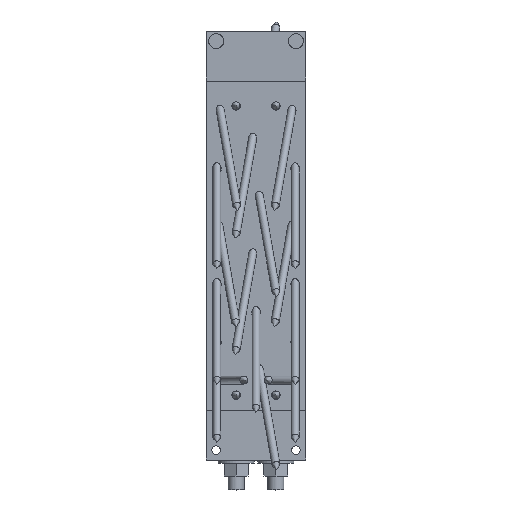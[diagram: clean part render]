
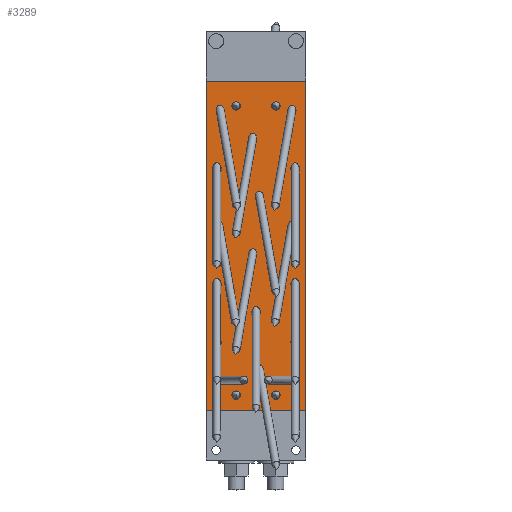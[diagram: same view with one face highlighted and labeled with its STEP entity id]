
A CAD part, top view. The second image highlights one B-rep face of the part: STEP entity #3289.
In plain terms, the highlighted planar face has unit normal (0, 0, 1) as drawn and (0, 0, -1) by its records, which use the part's own axes.
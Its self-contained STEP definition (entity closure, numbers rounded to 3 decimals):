
#372=ELLIPSE('',#3791,6.103,4.25);
#373=ELLIPSE('',#3792,6.103,4.25);
#374=ELLIPSE('',#3793,6.103,4.25);
#375=ELLIPSE('',#3794,6.103,4.25);
#376=ELLIPSE('',#3795,6.103,4.25);
#377=ELLIPSE('',#3796,6.01,4.25);
#378=ELLIPSE('',#3797,6.01,4.25);
#379=ELLIPSE('',#3798,6.103,4.25);
#380=ELLIPSE('',#3799,6.103,4.25);
#381=ELLIPSE('',#3800,6.01,4.25);
#382=ELLIPSE('',#3801,6.01,4.25);
#383=ELLIPSE('',#3802,6.01,4.25);
#384=ELLIPSE('',#3803,6.01,4.25);
#385=ELLIPSE('',#3804,6.01,4.25);
#386=ELLIPSE('',#3805,6.103,4.25);
#387=ELLIPSE('',#3810,4.316,4.25);
#388=ELLIPSE('',#3811,4.316,4.25);
#485=LINE('',#5413,#733);
#487=LINE('',#5455,#735);
#488=LINE('',#5457,#736);
#489=LINE('',#5459,#737);
#733=VECTOR('',#4316,1000.);
#735=VECTOR('',#4358,1000.);
#736=VECTOR('',#4359,1000.);
#737=VECTOR('',#4360,1000.);
#1031=ORIENTED_EDGE('',*,*,#1782,.F.);
#1032=ORIENTED_EDGE('',*,*,#1783,.F.);
#1033=ORIENTED_EDGE('',*,*,#1784,.F.);
#1034=ORIENTED_EDGE('',*,*,#1785,.F.);
#1035=ORIENTED_EDGE('',*,*,#1786,.F.);
#1036=ORIENTED_EDGE('',*,*,#1787,.F.);
#1037=ORIENTED_EDGE('',*,*,#1788,.F.);
#1038=ORIENTED_EDGE('',*,*,#1789,.F.);
#1039=ORIENTED_EDGE('',*,*,#1790,.F.);
#1040=ORIENTED_EDGE('',*,*,#1791,.F.);
#1041=ORIENTED_EDGE('',*,*,#1792,.F.);
#1042=ORIENTED_EDGE('',*,*,#1793,.F.);
#1043=ORIENTED_EDGE('',*,*,#1794,.F.);
#1044=ORIENTED_EDGE('',*,*,#1795,.F.);
#1045=ORIENTED_EDGE('',*,*,#1796,.F.);
#1046=ORIENTED_EDGE('',*,*,#1797,.F.);
#1047=ORIENTED_EDGE('',*,*,#1798,.F.);
#1048=ORIENTED_EDGE('',*,*,#1799,.F.);
#1049=ORIENTED_EDGE('',*,*,#1800,.F.);
#1050=ORIENTED_EDGE('',*,*,#1801,.F.);
#1051=ORIENTED_EDGE('',*,*,#1802,.T.);
#1052=ORIENTED_EDGE('',*,*,#1803,.T.);
#1053=ORIENTED_EDGE('',*,*,#1780,.F.);
#1054=ORIENTED_EDGE('',*,*,#1804,.T.);
#1055=ORIENTED_EDGE('',*,*,#1805,.T.);
#1780=EDGE_CURVE('',#2147,#2148,#485,.T.);
#1782=EDGE_CURVE('',#2149,#2149,#372,.T.);
#1783=EDGE_CURVE('',#2150,#2150,#373,.T.);
#1784=EDGE_CURVE('',#2151,#2151,#374,.T.);
#1785=EDGE_CURVE('',#2152,#2152,#375,.T.);
#1786=EDGE_CURVE('',#2153,#2153,#376,.T.);
#1787=EDGE_CURVE('',#2154,#2154,#377,.T.);
#1788=EDGE_CURVE('',#2155,#2155,#378,.T.);
#1789=EDGE_CURVE('',#2156,#2156,#379,.T.);
#1790=EDGE_CURVE('',#2157,#2157,#380,.T.);
#1791=EDGE_CURVE('',#2158,#2158,#381,.T.);
#1792=EDGE_CURVE('',#2159,#2159,#382,.T.);
#1793=EDGE_CURVE('',#2160,#2160,#383,.T.);
#1794=EDGE_CURVE('',#2161,#2161,#384,.T.);
#1795=EDGE_CURVE('',#2162,#2162,#385,.T.);
#1796=EDGE_CURVE('',#2163,#2163,#386,.T.);
#1797=EDGE_CURVE('',#2164,#2164,#2361,.T.);
#1798=EDGE_CURVE('',#2165,#2165,#2362,.T.);
#1799=EDGE_CURVE('',#2166,#2166,#2363,.T.);
#1800=EDGE_CURVE('',#2167,#2167,#2364,.T.);
#1801=EDGE_CURVE('',#2168,#2147,#487,.T.);
#1802=EDGE_CURVE('',#2168,#2169,#488,.T.);
#1803=EDGE_CURVE('',#2169,#2148,#489,.T.);
#1804=EDGE_CURVE('',#2170,#2170,#387,.F.);
#1805=EDGE_CURVE('',#2171,#2171,#388,.F.);
#2147=VERTEX_POINT('',#5412);
#2148=VERTEX_POINT('',#5414);
#2149=VERTEX_POINT('',#5418);
#2150=VERTEX_POINT('',#5420);
#2151=VERTEX_POINT('',#5422);
#2152=VERTEX_POINT('',#5424);
#2153=VERTEX_POINT('',#5426);
#2154=VERTEX_POINT('',#5428);
#2155=VERTEX_POINT('',#5430);
#2156=VERTEX_POINT('',#5432);
#2157=VERTEX_POINT('',#5434);
#2158=VERTEX_POINT('',#5436);
#2159=VERTEX_POINT('',#5438);
#2160=VERTEX_POINT('',#5440);
#2161=VERTEX_POINT('',#5442);
#2162=VERTEX_POINT('',#5444);
#2163=VERTEX_POINT('',#5446);
#2164=VERTEX_POINT('',#5448);
#2165=VERTEX_POINT('',#5450);
#2166=VERTEX_POINT('',#5452);
#2167=VERTEX_POINT('',#5454);
#2168=VERTEX_POINT('',#5456);
#2169=VERTEX_POINT('',#5458);
#2170=VERTEX_POINT('',#5461);
#2171=VERTEX_POINT('',#5463);
#2361=CIRCLE('',#3806,4.25);
#2362=CIRCLE('',#3807,4.25);
#2363=CIRCLE('',#3808,4.25);
#2364=CIRCLE('',#3809,4.25);
#2494=EDGE_LOOP('',(#1031));
#2495=EDGE_LOOP('',(#1032));
#2496=EDGE_LOOP('',(#1033));
#2497=EDGE_LOOP('',(#1034));
#2498=EDGE_LOOP('',(#1035));
#2499=EDGE_LOOP('',(#1036));
#2500=EDGE_LOOP('',(#1037));
#2501=EDGE_LOOP('',(#1038));
#2502=EDGE_LOOP('',(#1039));
#2503=EDGE_LOOP('',(#1040));
#2504=EDGE_LOOP('',(#1041));
#2505=EDGE_LOOP('',(#1042));
#2506=EDGE_LOOP('',(#1043));
#2507=EDGE_LOOP('',(#1044));
#2508=EDGE_LOOP('',(#1045));
#2509=EDGE_LOOP('',(#1046));
#2510=EDGE_LOOP('',(#1047));
#2511=EDGE_LOOP('',(#1048));
#2512=EDGE_LOOP('',(#1049));
#2513=EDGE_LOOP('',(#1050,#1051,#1052,#1053));
#2514=EDGE_LOOP('',(#1054));
#2515=EDGE_LOOP('',(#1055));
#2850=FACE_BOUND('',#2494,.T.);
#2851=FACE_BOUND('',#2495,.T.);
#2852=FACE_BOUND('',#2496,.T.);
#2853=FACE_BOUND('',#2497,.T.);
#2854=FACE_BOUND('',#2498,.T.);
#2855=FACE_BOUND('',#2499,.T.);
#2856=FACE_BOUND('',#2500,.T.);
#2857=FACE_BOUND('',#2501,.T.);
#2858=FACE_BOUND('',#2502,.T.);
#2859=FACE_BOUND('',#2503,.T.);
#2860=FACE_BOUND('',#2504,.T.);
#2861=FACE_BOUND('',#2505,.T.);
#2862=FACE_BOUND('',#2506,.T.);
#2863=FACE_BOUND('',#2507,.T.);
#2864=FACE_BOUND('',#2508,.T.);
#2865=FACE_BOUND('',#2509,.T.);
#2866=FACE_BOUND('',#2510,.T.);
#2867=FACE_BOUND('',#2511,.T.);
#2868=FACE_BOUND('',#2512,.T.);
#2869=FACE_BOUND('',#2513,.T.);
#2870=FACE_BOUND('',#2514,.T.);
#2871=FACE_BOUND('',#2515,.T.);
#3185=PLANE('',#3790);
#3289=ADVANCED_FACE('',(#2850,#2851,#2852,#2853,#2854,#2855,#2856,#2857,
#2858,#2859,#2860,#2861,#2862,#2863,#2864,#2865,#2866,#2867,#2868,#2869,
#2870,#2871),#3185,.T.);
#3790=AXIS2_PLACEMENT_3D('',#5416,#4318,#4319);
#3791=AXIS2_PLACEMENT_3D('',#5417,#4320,#4321);
#3792=AXIS2_PLACEMENT_3D('',#5419,#4322,#4323);
#3793=AXIS2_PLACEMENT_3D('',#5421,#4324,#4325);
#3794=AXIS2_PLACEMENT_3D('',#5423,#4326,#4327);
#3795=AXIS2_PLACEMENT_3D('',#5425,#4328,#4329);
#3796=AXIS2_PLACEMENT_3D('',#5427,#4330,#4331);
#3797=AXIS2_PLACEMENT_3D('',#5429,#4332,#4333);
#3798=AXIS2_PLACEMENT_3D('',#5431,#4334,#4335);
#3799=AXIS2_PLACEMENT_3D('',#5433,#4336,#4337);
#3800=AXIS2_PLACEMENT_3D('',#5435,#4338,#4339);
#3801=AXIS2_PLACEMENT_3D('',#5437,#4340,#4341);
#3802=AXIS2_PLACEMENT_3D('',#5439,#4342,#4343);
#3803=AXIS2_PLACEMENT_3D('',#5441,#4344,#4345);
#3804=AXIS2_PLACEMENT_3D('',#5443,#4346,#4347);
#3805=AXIS2_PLACEMENT_3D('',#5445,#4348,#4349);
#3806=AXIS2_PLACEMENT_3D('',#5447,#4350,#4351);
#3807=AXIS2_PLACEMENT_3D('',#5449,#4352,#4353);
#3808=AXIS2_PLACEMENT_3D('',#5451,#4354,#4355);
#3809=AXIS2_PLACEMENT_3D('',#5453,#4356,#4357);
#3810=AXIS2_PLACEMENT_3D('',#5460,#4361,#4362);
#3811=AXIS2_PLACEMENT_3D('',#5462,#4363,#4364);
#4316=DIRECTION('',(0.,-1.,0.));
#4318=DIRECTION('',(0.,0.,-1.));
#4319=DIRECTION('',(-1.,0.,0.));
#4320=DIRECTION('',(0.,0.,-1.));
#4321=DIRECTION('',(0.171,-0.985,0.));
#4322=DIRECTION('',(0.,0.,-1.));
#4323=DIRECTION('',(-0.171,-0.985,0.));
#4324=DIRECTION('',(0.,0.,-1.));
#4325=DIRECTION('',(0.171,-0.985,0.));
#4326=DIRECTION('',(0.,0.,-1.));
#4327=DIRECTION('',(-0.171,-0.985,0.));
#4328=DIRECTION('',(0.,0.,-1.));
#4329=DIRECTION('',(0.171,-0.985,0.));
#4330=DIRECTION('',(0.,0.,-1.));
#4331=DIRECTION('',(0.,-1.,0.));
#4332=DIRECTION('',(0.,0.,-1.));
#4333=DIRECTION('',(0.,-1.,0.));
#4334=DIRECTION('',(0.,0.,-1.));
#4335=DIRECTION('',(-0.171,-0.985,0.));
#4336=DIRECTION('',(0.,0.,-1.));
#4337=DIRECTION('',(0.171,-0.985,0.));
#4338=DIRECTION('',(0.,0.,-1.));
#4339=DIRECTION('',(0.,-1.,0.));
#4340=DIRECTION('',(0.,0.,-1.));
#4341=DIRECTION('',(0.,-1.,0.));
#4342=DIRECTION('',(0.,0.,-1.));
#4343=DIRECTION('',(0.,-1.,0.));
#4344=DIRECTION('',(0.,0.,-1.));
#4345=DIRECTION('',(0.,-1.,0.));
#4346=DIRECTION('',(0.,0.,-1.));
#4347=DIRECTION('',(0.,-1.,0.));
#4348=DIRECTION('',(0.,0.,-1.));
#4349=DIRECTION('',(-0.171,-0.985,0.));
#4350=DIRECTION('',(0.,0.,-1.));
#4351=DIRECTION('',(-1.,0.,0.));
#4352=DIRECTION('',(0.,0.,-1.));
#4353=DIRECTION('',(-1.,0.,0.));
#4354=DIRECTION('',(0.,0.,-1.));
#4355=DIRECTION('',(-1.,0.,0.));
#4356=DIRECTION('',(0.,0.,-1.));
#4357=DIRECTION('',(-1.,0.,0.));
#4358=DIRECTION('',(-1.,0.,0.));
#4359=DIRECTION('',(0.,-1.,0.));
#4360=DIRECTION('',(-1.,0.,0.));
#4361=DIRECTION('',(0.,0.,-1.));
#4362=DIRECTION('',(-1.,0.,0.));
#4363=DIRECTION('',(0.,0.,-1.));
#4364=DIRECTION('',(1.,0.,0.));
#5412=CARTESIAN_POINT('',(0.,350.,0.));
#5413=CARTESIAN_POINT('',(0.,370.,0.));
#5414=CARTESIAN_POINT('',(0.,20.,0.));
#5416=CARTESIAN_POINT('',(0.,370.,0.));
#5417=CARTESIAN_POINT('',(46.473,78.313,0.));
#5418=CARTESIAN_POINT('',(47.518,72.299,0.));
#5419=CARTESIAN_POINT('',(53.527,136.316,0.));
#5420=CARTESIAN_POINT('',(52.482,130.303,0.));
#5421=CARTESIAN_POINT('',(46.473,194.313,0.));
#5422=CARTESIAN_POINT('',(47.518,188.3,0.));
#5423=CARTESIAN_POINT('',(14.277,50.304,0.));
#5424=CARTESIAN_POINT('',(13.232,44.291,0.));
#5425=CARTESIAN_POINT('',(85.723,50.304,0.));
#5426=CARTESIAN_POINT('',(86.768,44.291,0.));
#5427=CARTESIAN_POINT('',(10.75,108.,0.));
#5428=CARTESIAN_POINT('',(10.75,101.99,0.));
#5429=CARTESIAN_POINT('',(89.25,108.,0.));
#5430=CARTESIAN_POINT('',(89.25,101.99,0.));
#5431=CARTESIAN_POINT('',(12.905,166.307,0.));
#5432=CARTESIAN_POINT('',(11.861,160.294,0.));
#5433=CARTESIAN_POINT('',(85.723,166.312,0.));
#5434=CARTESIAN_POINT('',(86.768,160.299,0.));
#5435=CARTESIAN_POINT('',(10.75,224.,0.));
#5436=CARTESIAN_POINT('',(10.75,217.99,0.));
#5437=CARTESIAN_POINT('',(89.25,224.,0.));
#5438=CARTESIAN_POINT('',(89.25,217.99,0.));
#5439=CARTESIAN_POINT('',(50.,252.,0.));
#5440=CARTESIAN_POINT('',(50.,245.99,0.));
#5441=CARTESIAN_POINT('',(10.75,282.,0.));
#5442=CARTESIAN_POINT('',(10.75,275.99,0.));
#5443=CARTESIAN_POINT('',(89.25,282.,0.));
#5444=CARTESIAN_POINT('',(89.25,275.99,0.));
#5445=CARTESIAN_POINT('',(53.602,310.306,0.));
#5446=CARTESIAN_POINT('',(52.558,304.293,0.));
#5447=CARTESIAN_POINT('',(30.,45.,0.));
#5448=CARTESIAN_POINT('',(25.75,45.,0.));
#5449=CARTESIAN_POINT('',(70.,45.,0.));
#5450=CARTESIAN_POINT('',(65.75,45.,0.));
#5451=CARTESIAN_POINT('',(70.,335.,0.));
#5452=CARTESIAN_POINT('',(65.75,335.,0.));
#5453=CARTESIAN_POINT('',(30.,335.,0.));
#5454=CARTESIAN_POINT('',(25.75,335.,0.));
#5455=CARTESIAN_POINT('',(100.,350.,0.));
#5456=CARTESIAN_POINT('',(100.,350.,0.));
#5457=CARTESIAN_POINT('',(100.,370.,0.));
#5458=CARTESIAN_POINT('',(100.,20.,0.));
#5459=CARTESIAN_POINT('',(357.205,20.,0.));
#5460=CARTESIAN_POINT('',(14.277,320.,0.));
#5461=CARTESIAN_POINT('',(9.961,320.,0.));
#5462=CARTESIAN_POINT('',(85.723,320.,0.));
#5463=CARTESIAN_POINT('',(90.039,320.,0.));
